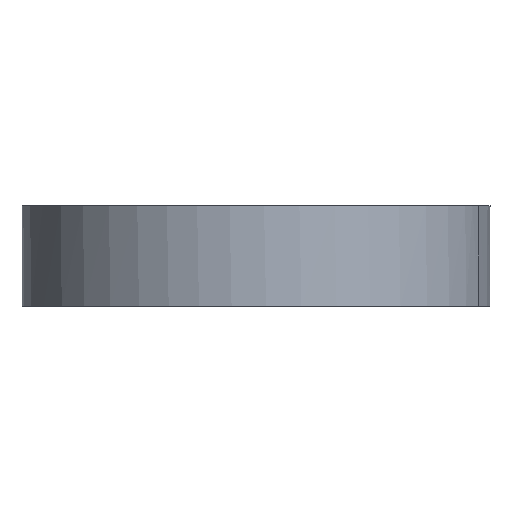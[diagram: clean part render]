
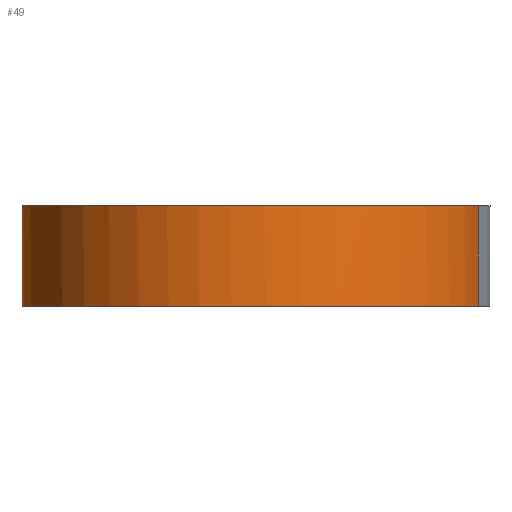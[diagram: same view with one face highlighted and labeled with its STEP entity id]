
A CAD part, front view. The second image highlights one B-rep face of the part: STEP entity #49.
In plain terms, the highlighted free-form (B-spline) face has degree [1, 2] with [2, 9] control points.
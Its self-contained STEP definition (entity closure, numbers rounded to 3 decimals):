
#49=ADVANCED_FACE('',(#83),#1185,.T.);
#83=FACE_OUTER_BOUND('',#117,.T.);
#117=EDGE_LOOP('',(#276,#277,#278,#279));
#276=ORIENTED_EDGE('',*,*,#931,.T.);
#277=ORIENTED_EDGE('',*,*,#924,.F.);
#278=ORIENTED_EDGE('',*,*,#932,.T.);
#279=ORIENTED_EDGE('',*,*,#848,.F.);
#306=PCURVE('',#1190,#486);
#425=PCURVE('',#1203,#605);
#456=PCURVE('',#1185,#636);
#457=PCURVE('',#1185,#637);
#458=PCURVE('',#1185,#638);
#459=PCURVE('',#1185,#639);
#463=PCURVE('',#1204,#643);
#480=PCURVE('',#1189,#660);
#486=DEFINITIONAL_REPRESENTATION('',(#668),#2293);
#605=DEFINITIONAL_REPRESENTATION('',(#725),#2293);
#636=DEFINITIONAL_REPRESENTATION('',(#1082),#2293);
#637=DEFINITIONAL_REPRESENTATION('',(#1083),#2293);
#638=DEFINITIONAL_REPRESENTATION('',(#1085),#2293);
#639=DEFINITIONAL_REPRESENTATION('',(#1086),#2293);
#643=DEFINITIONAL_REPRESENTATION('',(#1090),#2293);
#660=DEFINITIONAL_REPRESENTATION('',(#1110),#2293);
#667=(
BOUNDED_CURVE()
B_SPLINE_CURVE(2,(#1639,#1640,#1641,#1642,#1643),.UNSPECIFIED.,.F.,.F.)
B_SPLINE_CURVE_WITH_KNOTS((3,2,3),(-8.283,-6.712,-5.142),
 .UNSPECIFIED.)
CURVE()
GEOMETRIC_REPRESENTATION_ITEM()
RATIONAL_B_SPLINE_CURVE((1.,0.707,1.,0.707,1.))
REPRESENTATION_ITEM('')
);
#668=(
BOUNDED_CURVE()
B_SPLINE_CURVE(2,(#1644,#1645,#1646,#1647,#1648),.UNSPECIFIED.,.F.,.F.)
B_SPLINE_CURVE_WITH_KNOTS((3,2,3),(-8.283,-6.712,-5.142),
 .UNSPECIFIED.)
CURVE()
GEOMETRIC_REPRESENTATION_ITEM()
RATIONAL_B_SPLINE_CURVE((1.,0.707,1.,0.707,1.))
REPRESENTATION_ITEM('')
);
#724=(
BOUNDED_CURVE()
B_SPLINE_CURVE(2,(#2106,#2107,#2108,#2109,#2110),.UNSPECIFIED.,.F.,.F.)
B_SPLINE_CURVE_WITH_KNOTS((3,2,3),(-4.142,-2.571,-1.),
 .UNSPECIFIED.)
CURVE()
GEOMETRIC_REPRESENTATION_ITEM()
RATIONAL_B_SPLINE_CURVE((1.,0.707,1.,0.707,1.))
REPRESENTATION_ITEM('')
);
#725=(
BOUNDED_CURVE()
B_SPLINE_CURVE(2,(#2111,#2112,#2113,#2114,#2115),.UNSPECIFIED.,.F.,.F.)
B_SPLINE_CURVE_WITH_KNOTS((3,2,3),(-4.142,-2.571,-1.),
 .UNSPECIFIED.)
CURVE()
GEOMETRIC_REPRESENTATION_ITEM()
RATIONAL_B_SPLINE_CURVE((1.,0.707,1.,0.707,1.))
REPRESENTATION_ITEM('')
);
#758=SURFACE_CURVE('',#667,(#306,#459),.PCURVE_S1.);
#834=SURFACE_CURVE('',#724,(#425,#457),.PCURVE_S1.);
#841=SURFACE_CURVE('',#1081,(#456,#480),.PCURVE_S1.);
#842=SURFACE_CURVE('',#1084,(#458,#463),.PCURVE_S1.);
#848=EDGE_CURVE('',#1165,#1164,#758,.T.);
#924=EDGE_CURVE('',#1167,#1166,#834,.T.);
#931=EDGE_CURVE('',#1165,#1166,#841,.T.);
#932=EDGE_CURVE('',#1167,#1164,#842,.T.);
#1081=B_SPLINE_CURVE_WITH_KNOTS('',1,(#2226,#2227),.UNSPECIFIED.,.F.,.F.,
(2,2),(0.,1.),.UNSPECIFIED.);
#1082=B_SPLINE_CURVE_WITH_KNOTS('',1,(#2228,#2229),.UNSPECIFIED.,.F.,.F.,
(2,2),(0.,1.),.UNSPECIFIED.);
#1083=B_SPLINE_CURVE_WITH_KNOTS('',1,(#2230,#2231),.UNSPECIFIED.,.F.,.F.,
(2,2),(-4.142,-1.),.UNSPECIFIED.);
#1084=B_SPLINE_CURVE_WITH_KNOTS('',1,(#2232,#2233),.UNSPECIFIED.,.F.,.F.,
(2,2),(4.142,5.142),.UNSPECIFIED.);
#1085=B_SPLINE_CURVE_WITH_KNOTS('',1,(#2234,#2235),.UNSPECIFIED.,.F.,.F.,
(2,2),(4.142,5.142),.UNSPECIFIED.);
#1086=B_SPLINE_CURVE_WITH_KNOTS('',1,(#2236,#2237),.UNSPECIFIED.,.F.,.F.,
(2,2),(-8.283,-5.142),.UNSPECIFIED.);
#1090=B_SPLINE_CURVE_WITH_KNOTS('',1,(#2244,#2245),.UNSPECIFIED.,.F.,.F.,
(2,2),(4.142,5.142),.UNSPECIFIED.);
#1110=B_SPLINE_CURVE_WITH_KNOTS('',1,(#2284,#2285),.UNSPECIFIED.,.F.,.F.,
(2,2),(0.,1.),.UNSPECIFIED.);
#1164=VERTEX_POINT('',#1618);
#1165=VERTEX_POINT('',#1619);
#1166=VERTEX_POINT('',#1620);
#1167=VERTEX_POINT('',#1621);
#1185=(
BOUNDED_SURFACE()
B_SPLINE_SURFACE(1,2,((#1476,#1477,#1478,#1479,#1480,#1481,#1482,#1483,#1484),
(#1485,#1486,#1487,#1488,#1489,#1490,#1491,#1492,#1493)),.UNSPECIFIED.,.F.,
 .F.,.F.)
B_SPLINE_SURFACE_WITH_KNOTS((2,2),(3,2,2,2,3),(0.,1.),(0.,1.571,
3.142,4.712,6.283),.UNSPECIFIED.)
GEOMETRIC_REPRESENTATION_ITEM()
RATIONAL_B_SPLINE_SURFACE(((1.,0.707,1.,0.707,1.,
0.707,1.,0.707,1.),(1.,0.707,1.,0.707,
1.,0.707,1.,0.707,1.)))
REPRESENTATION_ITEM('')
SURFACE()
);
#1189=(
BOUNDED_SURFACE()
B_SPLINE_SURFACE(1,2,((#1550,#1551,#1552,#1553,#1554,#1555,#1556,#1557,#1558),
(#1559,#1560,#1561,#1562,#1563,#1564,#1565,#1566,#1567)),.UNSPECIFIED.,.F.,
 .F.,.F.)
B_SPLINE_SURFACE_WITH_KNOTS((2,2),(3,2,2,2,3),(0.,1.),(0.,1.571,
3.142,4.712,6.283),.UNSPECIFIED.)
GEOMETRIC_REPRESENTATION_ITEM()
RATIONAL_B_SPLINE_SURFACE(((1.,0.707,1.,0.707,1.,
0.707,1.,0.707,1.),(1.,0.707,1.,0.707,
1.,0.707,1.,0.707,1.)))
REPRESENTATION_ITEM('')
SURFACE()
);
#1190=PLANE('',#1226);
#1203=PLANE('',#1239);
#1204=PLANE('',#1240);
#1226=AXIS2_PLACEMENT_3D('',#1264,#1245,$);
#1239=AXIS2_PLACEMENT_3D('',#1457,#1258,$);
#1240=AXIS2_PLACEMENT_3D('',#1494,#1259,$);
#1245=DIRECTION('',(0.,0.,-1.));
#1258=DIRECTION('',(0.,0.,1.));
#1259=DIRECTION('',(-0.95,0.313,0.));
#1264=CARTESIAN_POINT('',(685.663,21.603,1.5));
#1457=CARTESIAN_POINT('',(685.663,99.713,11.5));
#1476=CARTESIAN_POINT('',(686.835,52.245,1.5));
#1477=CARTESIAN_POINT('',(694.141,74.41,1.5));
#1478=CARTESIAN_POINT('',(716.305,67.105,1.5));
#1479=CARTESIAN_POINT('',(738.47,59.799,1.5));
#1480=CARTESIAN_POINT('',(731.165,37.635,1.5));
#1481=CARTESIAN_POINT('',(723.859,15.47,1.5));
#1482=CARTESIAN_POINT('',(701.695,22.775,1.5));
#1483=CARTESIAN_POINT('',(679.53,30.081,1.5));
#1484=CARTESIAN_POINT('',(686.835,52.245,1.5));
#1485=CARTESIAN_POINT('',(686.835,52.245,11.5));
#1486=CARTESIAN_POINT('',(694.141,74.41,11.5));
#1487=CARTESIAN_POINT('',(716.305,67.105,11.5));
#1488=CARTESIAN_POINT('',(738.47,59.799,11.5));
#1489=CARTESIAN_POINT('',(731.165,37.635,11.5));
#1490=CARTESIAN_POINT('',(723.859,15.47,11.5));
#1491=CARTESIAN_POINT('',(701.695,22.775,11.5));
#1492=CARTESIAN_POINT('',(679.53,30.081,11.5));
#1493=CARTESIAN_POINT('',(686.835,52.245,11.5));
#1494=CARTESIAN_POINT('',(686.835,52.245,11.5));
#1550=CARTESIAN_POINT('',(686.835,52.245,1.5));
#1551=CARTESIAN_POINT('',(694.141,74.41,1.5));
#1552=CARTESIAN_POINT('',(716.305,67.105,1.5));
#1553=CARTESIAN_POINT('',(738.47,59.799,1.5));
#1554=CARTESIAN_POINT('',(731.165,37.635,1.5));
#1555=CARTESIAN_POINT('',(723.859,15.47,1.5));
#1556=CARTESIAN_POINT('',(701.695,22.775,1.5));
#1557=CARTESIAN_POINT('',(679.53,30.081,1.5));
#1558=CARTESIAN_POINT('',(686.835,52.245,1.5));
#1559=CARTESIAN_POINT('',(686.835,52.245,11.5));
#1560=CARTESIAN_POINT('',(694.141,74.41,11.5));
#1561=CARTESIAN_POINT('',(716.305,67.105,11.5));
#1562=CARTESIAN_POINT('',(738.47,59.799,11.5));
#1563=CARTESIAN_POINT('',(731.165,37.635,11.5));
#1564=CARTESIAN_POINT('',(723.859,15.47,11.5));
#1565=CARTESIAN_POINT('',(701.695,22.775,11.5));
#1566=CARTESIAN_POINT('',(679.53,30.081,11.5));
#1567=CARTESIAN_POINT('',(686.835,52.245,11.5));
#1618=CARTESIAN_POINT('',(686.835,52.245,1.5));
#1619=CARTESIAN_POINT('',(731.165,37.635,1.5));
#1620=CARTESIAN_POINT('',(731.165,37.635,11.5));
#1621=CARTESIAN_POINT('',(686.835,52.245,11.5));
#1639=CARTESIAN_POINT('',(731.165,37.635,1.5));
#1640=CARTESIAN_POINT('',(723.859,15.47,1.5));
#1641=CARTESIAN_POINT('',(701.695,22.775,1.5));
#1642=CARTESIAN_POINT('',(679.53,30.081,1.5));
#1643=CARTESIAN_POINT('',(686.835,52.245,1.5));
#1644=CARTESIAN_POINT('',(0.205,0.975));
#1645=CARTESIAN_POINT('',(-0.079,0.818));
#1646=CARTESIAN_POINT('',(0.015,0.343));
#1647=CARTESIAN_POINT('',(0.109,-0.131));
#1648=CARTESIAN_POINT('',(0.392,0.025));
#2106=CARTESIAN_POINT('',(686.835,52.245,11.5));
#2107=CARTESIAN_POINT('',(679.53,30.081,11.5));
#2108=CARTESIAN_POINT('',(701.695,22.775,11.5));
#2109=CARTESIAN_POINT('',(723.859,15.47,11.5));
#2110=CARTESIAN_POINT('',(731.165,37.635,11.5));
#2111=CARTESIAN_POINT('',(0.608,0.025));
#2112=CARTESIAN_POINT('',(0.891,-0.131));
#2113=CARTESIAN_POINT('',(0.985,0.343));
#2114=CARTESIAN_POINT('',(1.079,0.818));
#2115=CARTESIAN_POINT('',(0.795,0.975));
#2226=CARTESIAN_POINT('',(731.165,37.635,1.5));
#2227=CARTESIAN_POINT('',(731.165,37.635,11.5));
#2228=CARTESIAN_POINT('',(0.,3.142));
#2229=CARTESIAN_POINT('',(1.,3.142));
#2230=CARTESIAN_POINT('',(1.,6.283));
#2231=CARTESIAN_POINT('',(1.,3.142));
#2232=CARTESIAN_POINT('',(686.835,52.245,11.5));
#2233=CARTESIAN_POINT('',(686.835,52.245,1.5));
#2234=CARTESIAN_POINT('',(1.,6.283));
#2235=CARTESIAN_POINT('',(0.,6.283));
#2236=CARTESIAN_POINT('',(0.,3.142));
#2237=CARTESIAN_POINT('',(0.,6.283));
#2244=CARTESIAN_POINT('',(0.,0.));
#2245=CARTESIAN_POINT('',(0.,1.));
#2284=CARTESIAN_POINT('',(0.,3.142));
#2285=CARTESIAN_POINT('',(1.,3.142));
#2293=(
GEOMETRIC_REPRESENTATION_CONTEXT(2)
PARAMETRIC_REPRESENTATION_CONTEXT()
REPRESENTATION_CONTEXT('pspace','')
);
